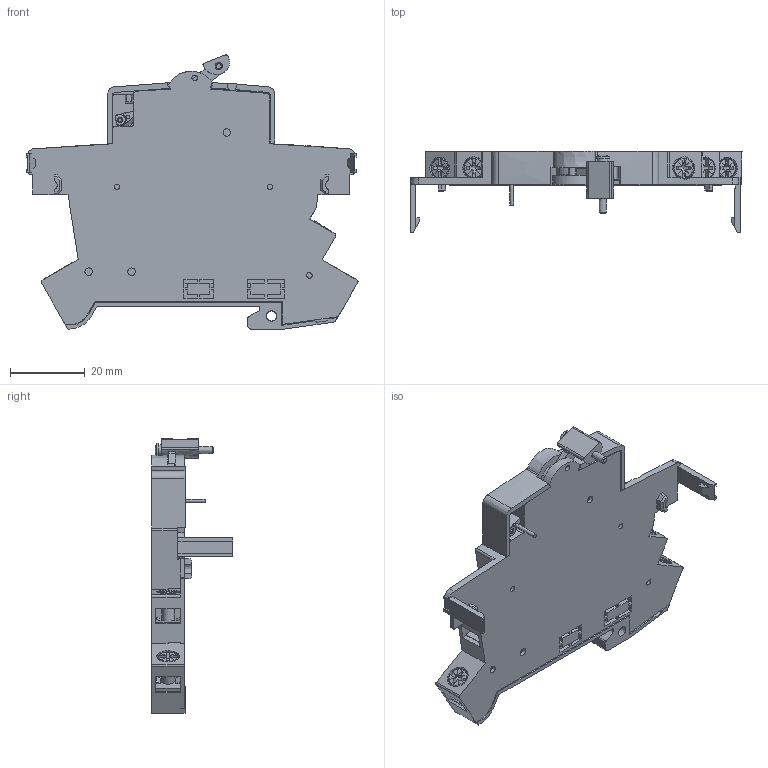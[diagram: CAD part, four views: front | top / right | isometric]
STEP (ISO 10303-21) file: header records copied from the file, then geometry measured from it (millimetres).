
FILE_DESCRIPTION(/* description */ (''),/* implementation_level */ '2;1');
FILE_NAME(/* name */ 'DHi_11.stp',/* time_stamp */ '2019-05-21T16:28:32+02:00',/* author */ (''),/* organization */ (''),/* preprocessor_version */ 'ST-DEVELOPER v16',/* originating_system */ 'SIEMENS PLM Software NX 11.0',/* authorisation */ '');
FILE_SCHEMA (('AUTOMOTIVE_DESIGN { 1 0 10303 214 3 1 1 1 }'));
Products named in the file (1): DHi_11
Bounding box: 88.98 x 21.85 x 73.48 mm (x, y, z)
Volume: 32109.7 mm3; surface area: 15590.9 mm2
Topology: 1 solids, 1 shells, 881 faces, 2436 edges, 1591 vertices
Faces by surface type: bspline 881
Entity records: 46963 total; most frequent: CARTESIAN_POINT 32376, ORIENTED_EDGE 4614, EDGE_CURVE 2307, B_SPLINE_CURVE_WITH_KNOTS 2307, VERTEX_POINT 1532, EDGE_LOOP 1011, ADVANCED_FACE 881, B_SPLINE_SURFACE_WITH_KNOTS 881
